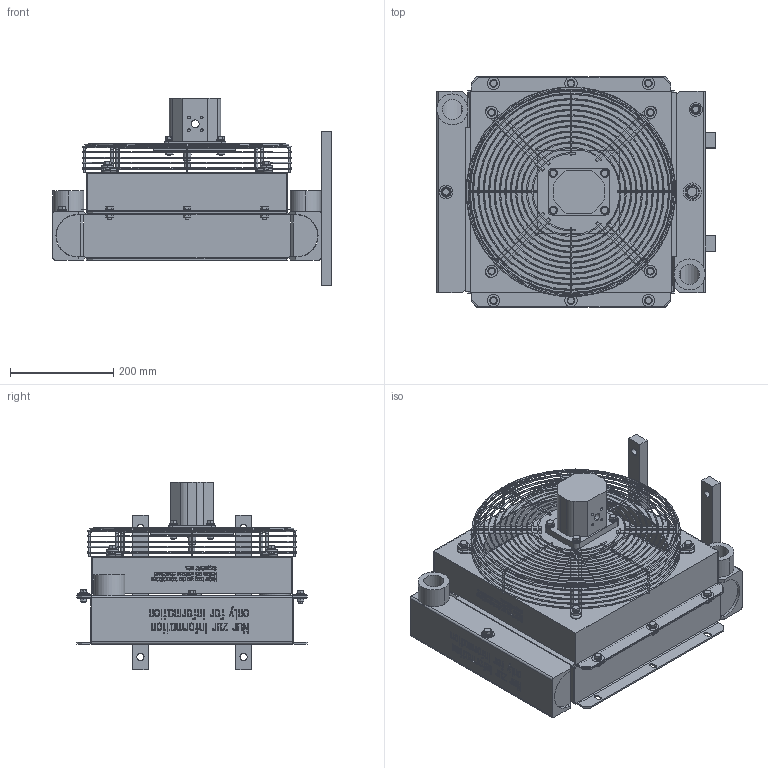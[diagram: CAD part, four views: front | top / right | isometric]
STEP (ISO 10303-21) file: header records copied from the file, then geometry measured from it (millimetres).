
FILE_DESCRIPTION((' '),'1');
FILE_NAME('5204.104.0000.step','2007-09-12 T',(' '),(' '),'STEP Interface v1.0 by CT CoreTechnologie','3D_Evolution v1.0 by CT CoreTechnologie',' ');
FILE_SCHEMA(('AUTOMOTIVE_DESIGN_CC2 { 1 2 10303 214 -1 1 5 2 }'));
Length unit declared in the file: millimetre
Products named in the file (85): 5204_104_0000; MutterM8+125; 6038041; 6030041; M8x30_+_DIN127_+_ISO7090; 6038042; 603504; Sechskantschraube_ISO_4017-M8x30-8_8-A3B; 8407_470_00441; 8407_470_00442; 8402_415_00001; 8402_415_00002; 8402_415_00003; 8402_415_00004; 8402_415_00005; 8402_415_00006; 8402_415_00007; 8402_415_00008; 8402_415_00009; 8402_415_000010; 8402_415_000011; 8402_415_000012; 8402_415_000013; 8402_415_000014; 8402_415_000015; 8402_415_000016; 8402_415_000017; 8402_415_000018; 8402_415_000019; 8402_415_000020; 8402_415_000021; 8402_415_000022; 8402_415_000023; 8402_415_000024; 8402_415_000025; 8402_415_000026; 8402_415_000027; Sechskantschraube_ISO_4017-M8x20-8_8-A3B; 6038281; 6038282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
Assembly tree (113 placements, depth 4):
  5204_104_0000
    MutterM8+125  x4
      6038041
      6030041
    M8x30_+_DIN127_+_ISO7090  x4
      6038042
      603504
      Sechskantschraube_ISO_4017-M8x30-8_8-A3B
    8407_470_00441
    8407_470_00442
    8402_415_00001
    8402_415_00002
    8402_415_00003
    8402_415_00004
    8402_415_00005
    8402_415_00006
    8402_415_00007
    8402_415_00008
    8402_415_00009
    8402_415_000010
    8402_415_000011
    8402_415_000012
    8402_415_000013
    8402_415_000014
    8402_415_000015
    8402_415_000016
    8402_415_000017
    8402_415_000018
    8402_415_000019
    8402_415_000020
    8402_415_000021
    8402_415_000022
    8402_415_000023
    8402_415_000024
    8402_415_000025
    8402_415_000026
    8402_415_000027
    Sechskantschraube_ISO_4017-M8x20-8_8-A3B  x4
    603504  x4
    6038281
    6038282
    6038283
    6038284
    6004041
    6004042
    6004043
    6004044
    603505  x4
    5205_104_00101
    5205_104_00102
    6030042
    6030043
    6030044
    6030045
    6030046
    6030047
    603857  x6
    M8x20_+_DIN_127_+_ISO_7093  x6
      603857
      603504
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Bounding box: 540.5 x 445.89 x 363.6 mm (x, y, z)
Volume: 18135761.5 mm3; surface area: 1871131.9 mm2
Topology: 124 solids, 124 shells, 3246 faces, 7930 edges, 5114 vertices
Faces by surface type: plane 1841, cylinder 565, bspline 316, cone 266, torus 258
Entity records: 115229 total; most frequent: CARTESIAN_POINT 27719, ORIENTED_EDGE 13260, DIRECTION 12163, EDGE_CURVE 6630, VECTOR 4469, LINE 4469, VERTEX_POINT 4294, AXIS2_PLACEMENT_3D 3847
